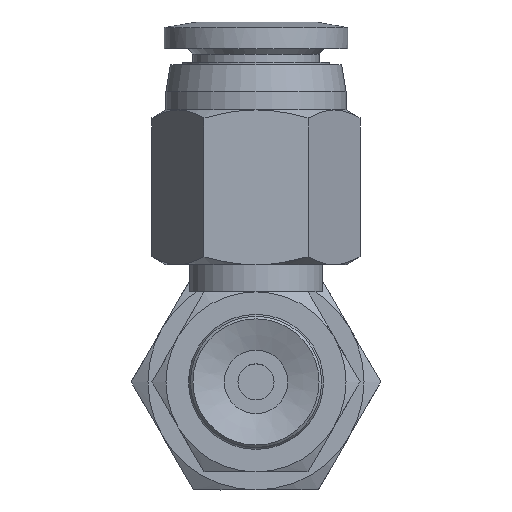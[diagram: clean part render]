
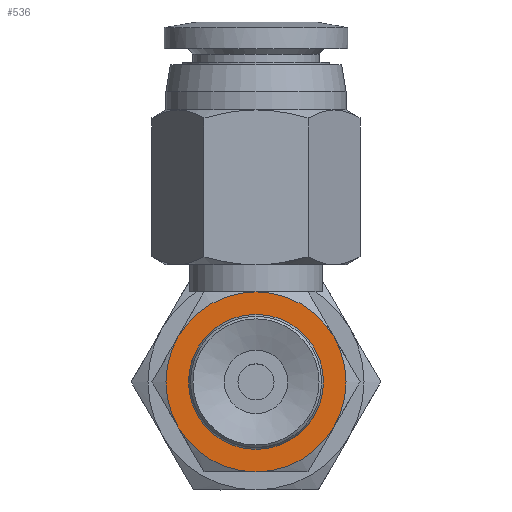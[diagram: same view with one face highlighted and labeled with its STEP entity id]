
A CAD part, front view. The second image highlights one B-rep face of the part: STEP entity #536.
In plain terms, the highlighted planar face has unit normal (0, -1, 0).
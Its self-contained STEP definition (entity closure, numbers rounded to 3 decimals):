
#536=ADVANCED_FACE('',(#820,#821),#822,.T.);
#820=FACE_BOUND('',#1252,.T.);
#821=FACE_OUTER_BOUND('',#1253,.T.);
#822=PLANE('',#1254);
#1252=EDGE_LOOP('',(#2272));
#1253=EDGE_LOOP('',(#2273,#2274,#2275,#2276,#2277,#2278));
#1254=AXIS2_PLACEMENT_3D('',#2279,#2280,#2281);
#2272=ORIENTED_EDGE('',*,*,#2992,.F.);
#2273=ORIENTED_EDGE('',*,*,#2937,.T.);
#2274=ORIENTED_EDGE('',*,*,#3001,.T.);
#2275=ORIENTED_EDGE('',*,*,#2939,.T.);
#2276=ORIENTED_EDGE('',*,*,#3002,.T.);
#2277=ORIENTED_EDGE('',*,*,#2918,.T.);
#2278=ORIENTED_EDGE('',*,*,#2933,.T.);
#2279=CARTESIAN_POINT('',(2.0,0.,0.0));
#2280=DIRECTION('',(0.0,-1.0,0.0));
#2281=DIRECTION('',(0.0,0.0,-1.0));
#2918=EDGE_CURVE('',#3273,#3287,#3289,.T.);
#2933=EDGE_CURVE('',#3287,#3305,#3316,.T.);
#2937=EDGE_CURVE('',#3305,#3319,#3321,.T.);
#2939=EDGE_CURVE('',#3322,#3290,#3324,.T.);
#2992=EDGE_CURVE('',#3415,#3415,#3416,.T.);
#3001=EDGE_CURVE('',#3319,#3322,#3430,.T.);
#3002=EDGE_CURVE('',#3290,#3273,#3431,.T.);
#3273=VERTEX_POINT('',#4071);
#3287=VERTEX_POINT('',#4097);
#3289=CIRCLE('',#4101,5.0);
#3290=VERTEX_POINT('',#4102);
#3305=VERTEX_POINT('',#4128);
#3316=CIRCLE('',#4149,5.0);
#3319=VERTEX_POINT('',#4156);
#3321=CIRCLE('',#4160,5.0);
#3322=VERTEX_POINT('',#4161);
#3324=CIRCLE('',#4165,5.0);
#3415=VERTEX_POINT('',#4341);
#3416=CIRCLE('',#4342,2.0);
#3430=CIRCLE('',#4364,5.0);
#3431=CIRCLE('',#4365,5.0);
#4071=CARTESIAN_POINT('',(-4.33,0.,2.5));
#4097=CARTESIAN_POINT('',(-4.33,0.0,-2.5));
#4101=AXIS2_PLACEMENT_3D('',#5016,#5017,#5018);
#4102=CARTESIAN_POINT('',(0.0,0.0,5.0));
#4128=CARTESIAN_POINT('',(0.0,0.0,-5.0));
#4149=AXIS2_PLACEMENT_3D('',#5028,#5029,#5030);
#4156=CARTESIAN_POINT('',(4.33,0.0,-2.5));
#4160=AXIS2_PLACEMENT_3D('',#5031,#5032,#5033);
#4161=CARTESIAN_POINT('',(4.33,0.0,2.5));
#4165=AXIS2_PLACEMENT_3D('',#5034,#5035,#5036);
#4341=CARTESIAN_POINT('',(0.0,0.,-2.0));
#4342=AXIS2_PLACEMENT_3D('',#5125,#5126,#5127);
#4364=AXIS2_PLACEMENT_3D('',#5139,#5140,#5141);
#4365=AXIS2_PLACEMENT_3D('',#5142,#5143,#5144);
#5016=CARTESIAN_POINT('',(0.0,0.,0.0));
#5017=DIRECTION('',(0.0,-1.0,0.0));
#5018=DIRECTION('',(0.0,0.0,-1.0));
#5028=CARTESIAN_POINT('',(0.0,0.,0.0));
#5029=DIRECTION('',(0.0,-1.0,0.0));
#5030=DIRECTION('',(0.0,0.0,-1.0));
#5031=CARTESIAN_POINT('',(0.0,0.,0.0));
#5032=DIRECTION('',(0.0,-1.0,0.0));
#5033=DIRECTION('',(0.0,0.0,-1.0));
#5034=CARTESIAN_POINT('',(0.0,0.,0.0));
#5035=DIRECTION('',(0.0,-1.0,0.0));
#5036=DIRECTION('',(0.0,0.0,-1.0));
#5125=CARTESIAN_POINT('',(0.0,0.,0.0));
#5126=DIRECTION('',(0.0,-1.0,0.0));
#5127=DIRECTION('',(0.0,0.0,-1.0));
#5139=CARTESIAN_POINT('',(0.0,0.,0.0));
#5140=DIRECTION('',(0.0,-1.0,0.0));
#5141=DIRECTION('',(0.0,0.0,-1.0));
#5142=CARTESIAN_POINT('',(0.0,0.,0.0));
#5143=DIRECTION('',(0.0,-1.0,0.0));
#5144=DIRECTION('',(0.0,0.0,-1.0));
